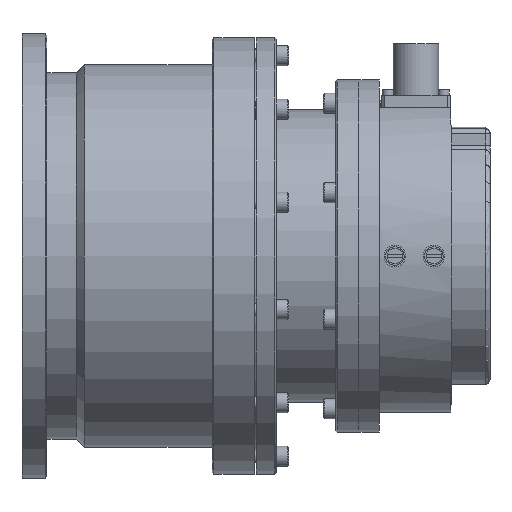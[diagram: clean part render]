
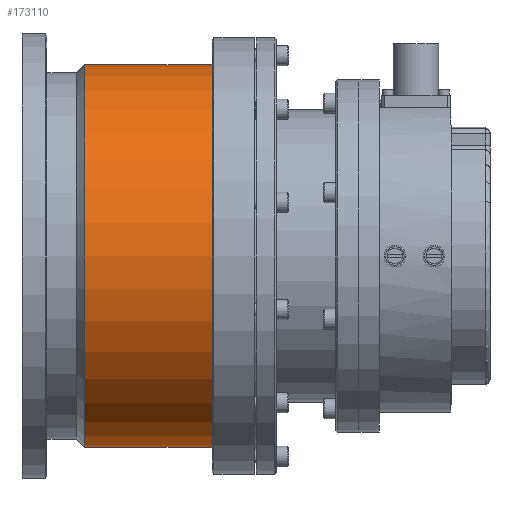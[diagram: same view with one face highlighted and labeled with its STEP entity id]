
A CAD part, left-side view. The second image highlights one B-rep face of the part: STEP entity #173110.
In plain terms, the highlighted cylindrical face has radius 122.75 mm (diameter 245.5 mm), a partial arc.
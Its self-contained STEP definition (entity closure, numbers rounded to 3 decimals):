
#151220=CARTESIAN_POINT('',(0.,0.,-47.614));
#151230=DIRECTION('',(0.,0.,-1.));
#151240=DIRECTION('',(0.,1.,0.));
#151250=AXIS2_PLACEMENT_3D('',#151220,#151230,#151240);
#151260=CIRCLE('',#151250,122.75);
#151270=CARTESIAN_POINT('',(0.,-122.75,-47.614));
#151280=VERTEX_POINT('',#151270);
#151290=CARTESIAN_POINT('',(0.,122.75,-47.614));
#151300=VERTEX_POINT('',#151290);
#151330=EDGE_CURVE('',#151300,#151280,#151260,.T.);
#151500=CARTESIAN_POINT('',(0.,-122.75,74.386));
#151510=DIRECTION('',(0.,0.,1.));
#151520=VECTOR('',#151510,1.);
#151530=LINE('',#151500,#151520);
#151540=CARTESIAN_POINT('',(0.,-122.75,
34.386));
#151550=VERTEX_POINT('',#151540);
#151560=EDGE_CURVE('',#151280,#151550,#151530,.T.);
#151590=CARTESIAN_POINT('',(0.,122.75,74.386));
#151600=DIRECTION('',(0.,0.,1.));
#151610=VECTOR('',#151600,1.);
#151620=LINE('',#151590,#151610);
#151630=CARTESIAN_POINT('',(0.,122.75,34.386));
#151640=VERTEX_POINT('',#151630);
#151650=EDGE_CURVE('',#151300,#151640,#151620,.T.);
#151670=CARTESIAN_POINT('',(0.,0.,34.386));
#151680=DIRECTION('',(0.,0.,1.));
#151690=DIRECTION('',(0.,-1.,0.));
#151700=AXIS2_PLACEMENT_3D('',#151670,#151680,#151690);
#151710=CIRCLE('',#151700,122.75);
#152360=EDGE_CURVE('',#151550,#151640,#151710,.T.);
#173000=CARTESIAN_POINT('',(0.,0.,74.386));
#173010=DIRECTION('',(0.,0.,1.));
#173020=DIRECTION('',(0.,1.,0.));
#173030=AXIS2_PLACEMENT_3D('',#173000,#173010,#173020);
#173040=CYLINDRICAL_SURFACE('',#173030,122.75);
#173050=ORIENTED_EDGE('',*,*,#151560,.F.);
#173060=ORIENTED_EDGE('',*,*,#152360,.F.);
#173070=ORIENTED_EDGE('',*,*,#151650,.T.);
#173080=ORIENTED_EDGE('',*,*,#151330,.F.);
#173090=EDGE_LOOP('',(#173080,#173070,#173060,#173050));
#173100=FACE_OUTER_BOUND('',#173090,.T.);
#173110=ADVANCED_FACE('',(#173100),#173040,.T.);
